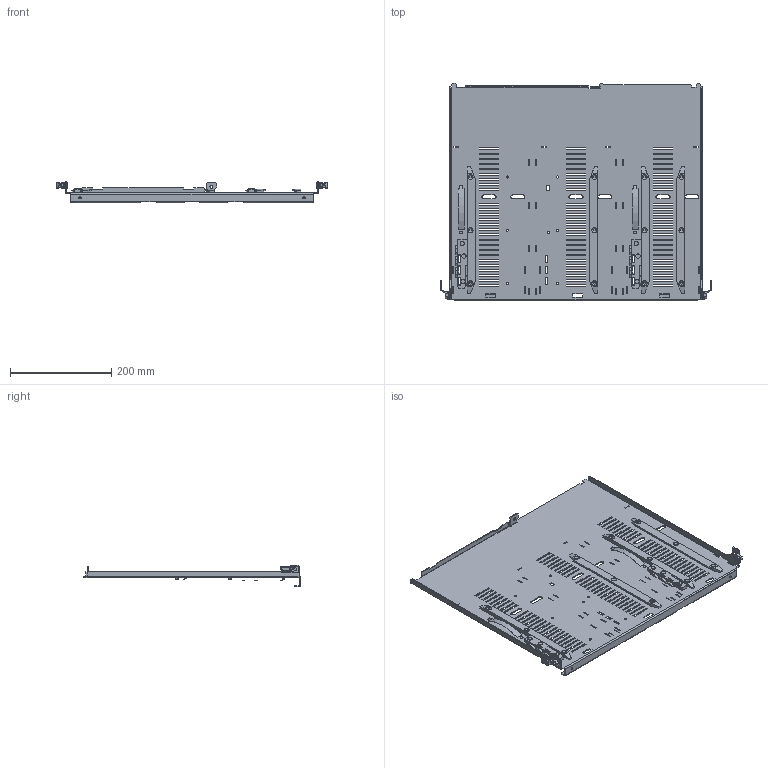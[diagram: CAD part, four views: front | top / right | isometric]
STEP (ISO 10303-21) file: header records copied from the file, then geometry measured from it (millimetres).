
FILE_DESCRIPTION(('CAx-IF Rec.Pracs.---Model Styling and Organization---1.2---2011-12-15','CAx-IF Rec.Pracs.---Geometric and Assembly Validation Properties---4.1---2014-06-16','CAx-IF Rec.Pracs.---PMI Polyline Presentation---2.0---2013-05-24'),'2;1');
FILE_NAME('R5M2WXM32L.stp','2021-05-05T12:44:31+03:00',(''),(''),'STEP Interface 4.4 by CT CoreTechnologie','3D_Evolution4.4 by CT CoreTechnologie','');
FILE_SCHEMA(('AUTOMOTIVE_DESIGN { 1 0 10303 214 1 1 1 1 }'));
Length unit declared in the file: millimetre
Products named in the file (10): R5M2WXM32L; RB.1167.00.00.0 ÑÁ_-03 (R5M2WM32L); M5x12-DIN 7500M ISR_stright; Ì4-GOST R 50273-92 (DIN 985)_stright DIN EN ISO 10511 - M4 - N; RB.1505.00.02.0; RB.1167.00.02.0; RB.1167.00.01.0_-02; RB.1167.00.03.0_-00; M6 x 16-DIN 7991 ISR_thread; AC00C485
Assembly tree (32 placements, depth 3):
  R5M2WXM32L
    RB.1167.00.00.0 ÑÁ_-03 (R5M2WM32L)
      M5x12-DIN 7500M ISR_stright  x12
      Ì4-GOST R 50273-92 (DIN 985)_stright DIN EN ISO 10511 - M4 - N  x6
      RB.1505.00.02.0  x4
      RB.1167.00.02.0  x2
      RB.1167.00.01.0_-02
      RB.1167.00.03.0_-00  x2
    M6 x 16-DIN 7991 ISR_thread  x2
    AC00C485  x2
Bounding box: 537 x 430 x 43 mm (x, y, z)
Surface area: 532829.8 mm2 (no closed solid volume)
Topology: 0 solids, 36 shells, 1229 faces, 3301 edges, 2152 vertices
Faces by surface type: plane 945, cylinder 224, bspline 60
Entity records: 31389 total; most frequent: CARTESIAN_POINT 5906, ORIENTED_EDGE 5212, DIRECTION 4728, EDGE_CURVE 2608, VECTOR 2316, LINE 2316, VERTEX_POINT 1714, EDGE_LOOP 1224
